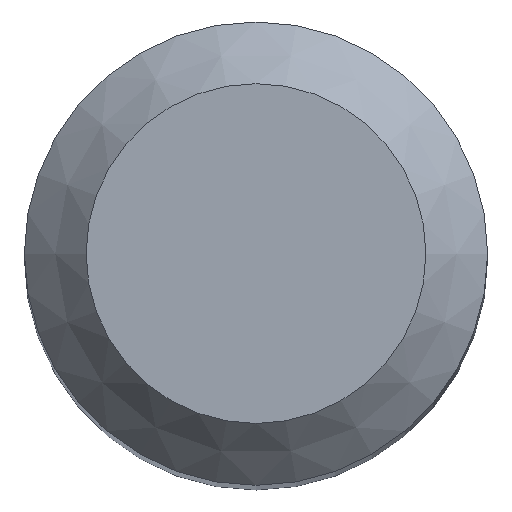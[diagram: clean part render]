
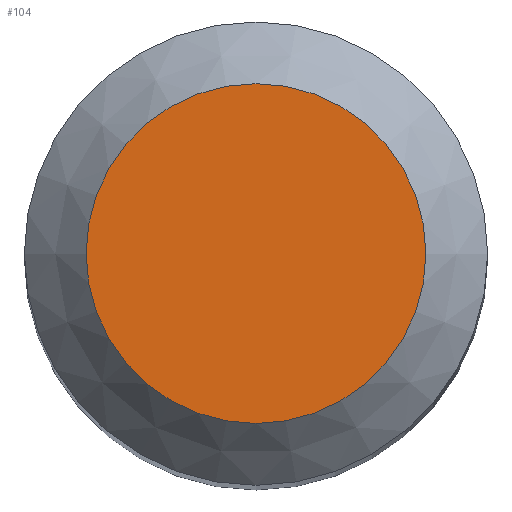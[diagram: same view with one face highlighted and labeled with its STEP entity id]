
A CAD part, top view. The second image highlights one B-rep face of the part: STEP entity #104.
In plain terms, the highlighted planar face has unit normal (0, 0, 1).
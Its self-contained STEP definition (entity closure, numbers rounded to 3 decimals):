
#88=CARTESIAN_POINT('',(2.2,0.0,60.0));
#89=DIRECTION('',(0.0,0.0,1.0));
#90=DIRECTION('',(1.0,0.0,0.0));
#91=AXIS2_PLACEMENT_3D('',#88,#89,#90);
#92=PLANE('',#91);
#93=CARTESIAN_POINT('',(-2.2,0.0,60.0));
#94=VERTEX_POINT('',#93);
#95=CARTESIAN_POINT('',(0.0,0.0,60.0));
#96=DIRECTION('',(0.0,0.0,-1.0));
#97=DIRECTION('',(-1.0,0.0,0.0));
#98=AXIS2_PLACEMENT_3D('',#95,#96,#97);
#99=CIRCLE('',#98,2.2);
#100=EDGE_CURVE('',#94,#94,#99,.T.);
#101=ORIENTED_EDGE('',*,*,#100,.F.);
#102=EDGE_LOOP('',(#101));
#103=FACE_OUTER_BOUND('',#102,.T.);
#104=ADVANCED_FACE('',(#103),#92,.T.);
